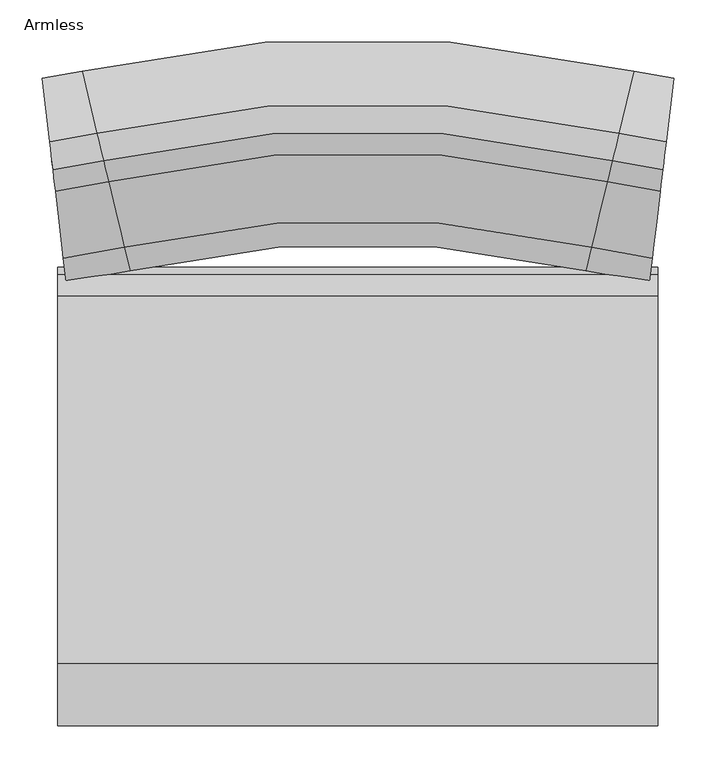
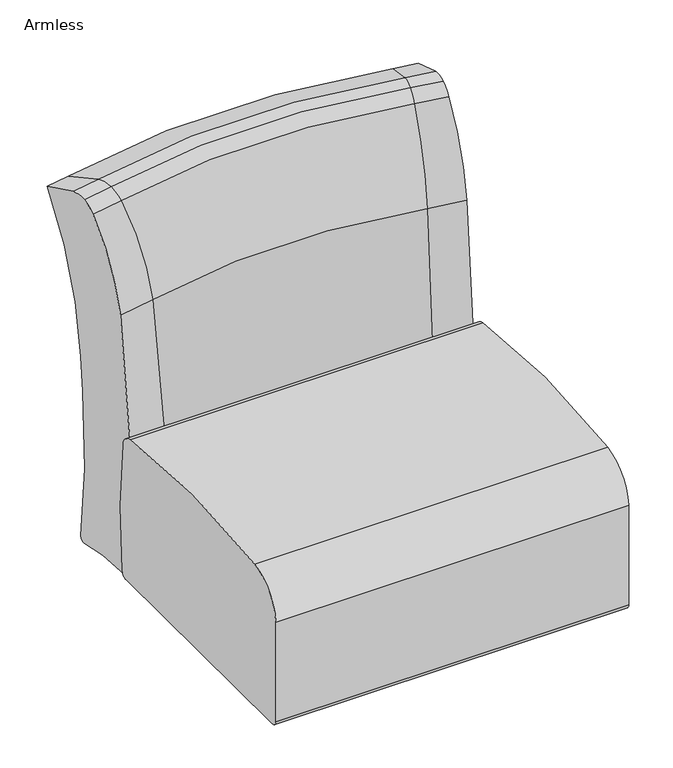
"""IFC4 building model written with IfcOpenShell, lengths in millimetres: furniture geometry, Steelcase Turnstone - Jenny - Seating - Lounge Chair : Armless."""

from ifc_helpers import new_model, si_unit, point, frame, frame_2d, origin, place, context, project, spatial, circle_curve, ellipse_curve, trimmed, segment, composite_curve, outline, extrude, source, transform, mapped, element, save
from ifc_brep_helpers import plane_surface, revolved_surface, advanced_brep


def armless_185a511e(model_context):
    return source(origin(), model_context, "Body", "SolidModel", [
        extrude(outline(composite_curve([segment(trimmed(circle_curve(frame_2d((295.9448235, -1001.9734672)), 1409.8455938), [point((73.6948235, 390.2440215))], [point((509.3958902, 391.6201753))], False, "CARTESIAN"), True, "CONTINUOUS"), segment(trimmed(circle_curve(frame_2d((504.9855283, 362.825509)), 29.1304669), [point((509.3958902, 391.6201753))], [point((533.8942756, 366.4127691))], False, "CARTESIAN"), True, "CONTINUOUS"), segment(trimmed(circle_curve(frame_2d((-629.8512072, 222.0046519)), 1172.6709909), [point((533.8942756, 366.4127691))], [point((536.0042378, 95.7575362))], False, "CARTESIAN"), True, "CONTINUOUS"), segment(trimmed(circle_curve(frame_2d((523.173628, 97.1469259)), 12.9056171), [point((536.0042378, 95.7575362))], [point((523.4804674, 84.244957))], False, "CARTESIAN"), True, "CONTINUOUS"), segment(trimmed(circle_curve(frame_2d((320.8347088, 8605.0850806)), 8523.249481), [point((523.4804674, 84.244957))], [point((12.6556229, 87.4089088))], False, "CARTESIAN"), True, "CONTINUOUS"), segment(trimmed(circle_curve(frame_2d((13.132469, 100.5883266)), 13.1880413), [point((12.6556229, 87.4089088))], [point((0.0, 99.3789084))], False, "CARTESIAN"), True, "CONTINUOUS"), segment(trimmed(circle_curve(frame_2d((1151.5533041, 205.4297595)), 1156.4263034), [point((0.0, 99.3789084))], [point((0.0, 311.4806107))], False, "CARTESIAN"), True, "CONTINUOUS"), segment(trimmed(circle_curve(frame_2d((87.555619, 303.4172862)), 87.9261259), [point((0.0, 311.4806107))], [point((73.6948235, 390.2440215))], False, "CARTESIAN"), True, "CONTINUOUS")], self_intersect=False)), frame((-355.6, 0.0, 0.0), z_axis=(1.0, 0.0, 0.0), x_axis=(0.0, 1.0, 0.0)), (0.0, 0.0, 1.0), 711.2),
        advanced_brep(
        [(-365.286616, 691.4565759, 813.9027777), (-374.1581434, 766.5452606, 782.2939395), (-362.648411, 669.1267858, 474.5451921), (-361.9534589, 663.244705, 404.1661408), (-361.3770167, 658.3656933, 241.4197302), (-362.6146384, 668.8409343, 92.210125), (-361.3954165, 658.5214293, 82.3084573), (-349.0009614, 553.6146536, 81.9987921), (-346.7002803, 534.1416683, 97.0710008), (-349.0142051, 553.7267481, 627.8736036), (-358.4008193, 633.1751322, 797.7221008), (-361.3730638, 658.3322355, 814.4538477), (-326.9667617, 774.979302, 782.2939395), (-309.2801577, 701.4660474, 813.9027777), (-304.020535, 679.604757, 474.5451921), (-302.6350528, 673.8460877, 404.1661408), (-301.4858364, 669.0694421, 241.4197302), (-303.9532047, 679.3249029, 92.210125), (-301.5225189, 669.2219106, 82.3084573), (-276.8124763, 566.5161761, 81.9987921), (-272.2257535, 547.451752, 97.0710008), (-276.8388793, 566.6259188, 627.8736036), (-295.5523794, 644.4074023, 797.7221008), (-301.4779556, 669.0366863, 814.4538477), (326.9667617, 774.979302, 782.2939395), (309.2801577, 701.4660474, 813.9027777), (304.020535, 679.604757, 474.5451921), (302.6350528, 673.8460877, 404.1661408), (301.4858364, 669.0694421, 241.4197302), (303.9532047, 679.3249029, 92.210125), (301.5225189, 669.2219106, 82.3084573), (276.8124763, 566.5161761, 81.9987921), (272.2257535, 547.451752, 97.0710008), (276.8388793, 566.6259188, 627.8736036), (295.5523794, 644.4074023, 797.7221008), (301.4779556, 669.0366863, 814.4538477), (365.286616, 691.4565759, 813.9027777), (361.3730638, 658.3322355, 814.4538477), (358.4008193, 633.1751322, 797.7221008), (349.0142051, 553.7267481, 627.8736036), (346.7002803, 534.1416683, 97.0710008), (349.0009614, 553.6146536, 81.9987921), (361.3954165, 658.5214293, 82.3084573), (362.6146384, 668.8409343, 92.210125), (361.3770167, 658.3656933, 241.4197302), (361.9534589, 663.244705, 404.1661408), (362.648411, 669.1267858, 474.5451921), (374.1581434, 766.5452606, 782.2939395)],
        [
            (0, 1, circle_curve(frame((-341.1261096, 486.9618391, 215.0940543), z_axis=(-0.9930928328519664, -0.11733126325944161, 0.0), x_axis=(-0.11733126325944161, 0.9930928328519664, 0.0)), 633.2248531)),
            (1, 2, circle_curve(frame((-441.9489126, 1340.3269208, 428.618251), z_axis=(0.9930928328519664, 0.11733126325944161, 0.0), x_axis=(-0.11733126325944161, 0.9930928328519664, 0.0)), 677.4270991)),
            (2, 3, circle_curve(frame((-106.0716484, -1502.5411649, 623.1418041), z_axis=(-0.9930928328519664, -0.11733126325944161, 0.0), x_axis=(-0.11733126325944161, 0.9930928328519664, 0.0)), 2191.8152925)),
            (3, 4, circle_curve(frame((-498.0432857, 1815.1101831, 287.7047166), z_axis=(0.9930928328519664, 0.11733126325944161, 0.0), x_axis=(-0.11733126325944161, 0.9930928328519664, 0.0)), 1165.7091335)),
            (4, 5, circle_curve(frame((-645.5581159, 3063.6769889, 337.6638027), z_axis=(0.9930928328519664, 0.11733126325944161, 0.0), x_axis=(-0.11733126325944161, 0.9930928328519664, 0.0)), 2423.9521958)),
            (5, 6, circle_curve(frame((-361.5543466, 659.8666153, 91.290321), z_axis=(-0.9930928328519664, -0.11733126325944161, 0.0), x_axis=(-0.11733126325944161, 0.9930928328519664, 0.0)), 9.0834278)),
            (6, 7, circle_curve(frame((-355.3163018, 607.0677497, -261.2499371), z_axis=(0.9930928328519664, 0.11733126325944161, 0.0), x_axis=(-0.11733126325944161, 0.9930928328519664, 0.0)), 347.443243)),
            (7, 8, circle_curve(frame((-348.6908883, 550.9901919, 98.8517567), z_axis=(-0.9930928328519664, -0.11733126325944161, 0.0), x_axis=(-0.11733126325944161, 0.9930928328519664, 0.0)), 17.0589085)),
            (8, 9, circle_curve(frame((-566.1189152, 2391.3029031, 293.3582769), z_axis=(-0.9930928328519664, -0.11733126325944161, 0.0), x_axis=(-0.11733126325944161, 0.9930928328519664, 0.0)), 1880.3513194)),
            (9, 10, circle_curve(frame((-390.9633635, 908.7847898, 563.2382651), z_axis=(-0.9930928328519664, -0.11733126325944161, 0.0), x_axis=(-0.11733126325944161, 0.9930928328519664, 0.0)), 363.3230957)),
            (10, 11, circle_curve(frame((-363.2305214, 674.0537729, 762.9432742), z_axis=(-0.9930928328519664, -0.11733126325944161, 0.0), x_axis=(-0.11733126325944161, 0.9930928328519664, 0.0)), 53.8883667)),
            (11, 0, circle_curve(frame((-363.2305214, 674.0537729, 762.9432742), z_axis=(-0.9930928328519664, -0.11733126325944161, 0.0), x_axis=(-0.11733126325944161, 0.9930928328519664, 0.0)), 53.8883667)),
            (12, 1, circle_curve(frame((-421.6517332, 1168.5314176, 782.2939395), z_axis=(0.0, 0.0, -1.0), x_axis=(0.1173312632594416, -0.9930928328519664, 0.0)), 404.7820543)),
            (0, 13, circle_curve(frame((-421.6517332, 1168.5314176, 813.9027777), z_axis=(0.0, 0.0, 1.0), x_axis=(0.1173312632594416, -0.9930928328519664, 0.0)), 480.3929964)),
            (13, 12, circle_curve(frame((-261.1128813, 501.2617994, 215.0940543), z_axis=(-0.9722568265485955, -0.23391593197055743, 0.0), x_axis=(-0.23391593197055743, 0.9722568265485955, 0.0)), 633.2248531)),
            (14, 2, circle_curve(frame((-421.6517332, 1168.5314176, 474.5451921), z_axis=(0.0, 0.0, -1.0), x_axis=(0.1173312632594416, -0.9930928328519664, 0.0)), 502.8780948)),
            (12, 14, circle_curve(frame((-462.1169383, 1336.7224922, 428.618251), z_axis=(0.9722568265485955, 0.23391593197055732, 0.0), x_axis=(-0.23391593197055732, 0.9722568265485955, 0.0)), 677.4270991)),
            (15, 3, circle_curve(frame((-421.6517332, 1168.5314176, 404.1661408), z_axis=(0.0, 0.0, -1.0), x_axis=(0.1173312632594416, -0.9930928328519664, 0.0)), 508.8010867)),
            (14, 15, circle_curve(frame((207.500358, -1446.4995912, 623.1418041), z_axis=(-0.9722568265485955, -0.2339159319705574, 0.0), x_axis=(-0.2339159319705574, 0.9722568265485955, 0.0)), 2191.8152925)),
            (16, 4, circle_curve(frame((-421.6517332, 1168.5314176, 241.4197302), z_axis=(0.0, 0.0, -1.0), x_axis=(0.1173312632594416, -0.9930928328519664, 0.0)), 513.714033)),
            (15, 16, circle_curve(frame((-573.9487486, 1801.5443625, 287.7047166), z_axis=(0.9722568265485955, 0.23391593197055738, 0.0), x_axis=(-0.23391593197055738, 0.9722568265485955, 0.0)), 1165.7091335)),
            (17, 5, circle_curve(frame((-421.6517332, 1168.5314176, 92.210125), z_axis=(0.0, 0.0, -1.0), x_axis=(0.1173312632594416, -0.9930928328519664, 0.0)), 503.1659344)),
            (16, 17, circle_curve(frame((-868.0397524, 3023.9150817, 337.6638027), z_axis=(0.9722568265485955, 0.2339159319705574, 0.0), x_axis=(-0.2339159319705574, 0.9722568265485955, 0.0)), 2423.9521958)),
            (18, 6, circle_curve(frame((-421.6517332, 1168.5314176, 82.3084573), z_axis=(0.0, 0.0, -1.0), x_axis=(0.1173312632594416, -0.9930928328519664, 0.0)), 513.5572138)),
            (17, 18, circle_curve(frame((-301.8393678, 670.5388734, 91.290321), z_axis=(-0.9722568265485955, -0.23391593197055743, 0.0), x_axis=(-0.23391593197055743, 0.9722568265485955, 0.0)), 9.0834278)),
            (19, 7, circle_curve(frame((-421.6517332, 1168.5314176, 81.9987921), z_axis=(0.0, 0.0, -1.0), x_axis=(0.1173312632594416, -0.9930928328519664, 0.0)), 619.193638)),
            (18, 19, circle_curve(frame((-289.4029717, 618.8477768, -261.2499371), z_axis=(0.9722568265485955, 0.2339159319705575, 0.0), x_axis=(-0.2339159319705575, 0.9722568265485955, 0.0)), 347.443243)),
            (20, 8, circle_curve(frame((-421.6517332, 1168.5314176, 97.0710008), z_axis=(0.0, 0.0, -1.0), x_axis=(0.1173312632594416, -0.9930928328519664, 0.0)), 638.8020619)),
            (19, 20, circle_curve(frame((-276.194303, 563.9467781, 98.8517567), z_axis=(-0.9722568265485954, -0.23391593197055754, 0.0), x_axis=(-0.23391593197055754, 0.9722568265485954, 0.0)), 17.0589085)),
            (21, 9, circle_curve(frame((-421.6517332, 1168.5314176, 627.8736036), z_axis=(0.0, 0.0, -1.0), x_axis=(0.1173312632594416, -0.9930928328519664, 0.0)), 619.0807637)),
            (20, 21, circle_curve(frame((-709.6668332, 2365.6480262, 293.3582769), z_axis=(-0.9722568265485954, -0.23391593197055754, 0.0), x_axis=(-0.23391593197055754, 0.9722568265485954, 0.0)), 1880.3513194)),
            (22, 10, circle_curve(frame((-421.6517332, 1168.5314176, 797.7221008), z_axis=(0.0, 0.0, -1.0), x_axis=(0.1173312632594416, -0.9930928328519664, 0.0)), 539.0797997)),
            (21, 22, circle_curve(frame((-360.4702681, 914.2345144, 563.2382651), z_axis=(-0.9722568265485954, -0.23391593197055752, 0.0), x_axis=(-0.23391593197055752, 0.9722568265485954, 0.0)), 363.3230957)),
            (23, 11, circle_curve(frame((-421.6517332, 1168.5314176, 814.4538477), z_axis=(0.0, 0.0, -1.0), x_axis=(0.1173312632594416, -0.9930928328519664, 0.0)), 513.7477235)),
            (22, 23, circle_curve(frame((-305.1810516, 684.4283713, 762.9432742), z_axis=(-0.9722568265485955, -0.2339159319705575, 0.0), x_axis=(-0.2339159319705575, 0.9722568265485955, 0.0)), 53.8883667)),
            (23, 13, circle_curve(frame((-305.1810516, 684.4283713, 762.9432742), z_axis=(-0.9722568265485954, -0.23391593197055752, 0.0), x_axis=(-0.23391593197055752, 0.9722568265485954, 0.0)), 53.8883667)),
            (24, 12, circle_curve(frame((0.0, -584.0374329, 782.2939395), z_axis=(0.0, 0.0, 1.0), x_axis=(-0.23391593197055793, 0.9722568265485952, 0.0)), 1397.7960327)),
            (13, 25, circle_curve(frame((0.0, -584.0374329, 813.9027777), z_axis=(0.0, 0.0, -1.0), x_axis=(-0.23391593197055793, 0.9722568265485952, 0.0)), 1322.1850906)),
            (25, 24, circle_curve(frame((261.1128813, 501.2617994, 215.0940543), z_axis=(-0.9722568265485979, 0.23391593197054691, 0.0), x_axis=(0.23391593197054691, 0.9722568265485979, 0.0)), 633.2248531)),
            (26, 14, circle_curve(frame((0.0, -584.0374329, 474.5451921), z_axis=(0.0, 0.0, 1.0), x_axis=(-0.23391593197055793, 0.9722568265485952, 0.0)), 1299.6999922)),
            (24, 26, circle_curve(frame((462.1169383, 1336.7224922, 428.618251), z_axis=(0.9722568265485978, -0.23391593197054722, 0.0), x_axis=(0.23391593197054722, 0.9722568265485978, 0.0)), 677.4270991)),
            (27, 15, circle_curve(frame((0.0, -584.0374329, 404.1661408), z_axis=(0.0, 0.0, 1.0), x_axis=(-0.23391593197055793, 0.9722568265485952, 0.0)), 1293.7770003)),
            (26, 27, circle_curve(frame((-207.500358, -1446.4995912, 623.1418041), z_axis=(-0.9722568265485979, 0.23391593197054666, 0.0), x_axis=(0.23391593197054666, 0.9722568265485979, 0.0)), 2191.8152925)),
            (28, 16, circle_curve(frame((0.0, -584.0374329, 241.4197302), z_axis=(0.0, 0.0, 1.0), x_axis=(-0.23391593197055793, 0.9722568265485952, 0.0)), 1288.864054)),
            (27, 28, circle_curve(frame((573.9487486, 1801.5443625, 287.7047166), z_axis=(0.9722568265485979, -0.23391593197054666, 0.0), x_axis=(0.23391593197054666, 0.9722568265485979, 0.0)), 1165.7091335)),
            (29, 17, circle_curve(frame((0.0, -584.0374329, 92.210125), z_axis=(0.0, 0.0, 1.0), x_axis=(-0.23391593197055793, 0.9722568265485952, 0.0)), 1299.4121525)),
            (28, 29, circle_curve(frame((868.0397524, 3023.9150817, 337.6638027), z_axis=(0.9722568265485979, -0.23391593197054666, 0.0), x_axis=(0.23391593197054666, 0.9722568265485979, 0.0)), 2423.9521958)),
            (30, 18, circle_curve(frame((0.0, -584.0374329, 82.3084573), z_axis=(0.0, 0.0, 1.0), x_axis=(-0.23391593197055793, 0.9722568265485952, 0.0)), 1289.0208732)),
            (29, 30, circle_curve(frame((301.8393678, 670.5388734, 91.290321), z_axis=(-0.9722568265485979, 0.23391593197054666, 0.0), x_axis=(0.23391593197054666, 0.9722568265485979, 0.0)), 9.0834278)),
            (31, 19, circle_curve(frame((0.0, -584.0374329, 81.9987921), z_axis=(0.0, 0.0, 1.0), x_axis=(-0.23391593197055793, 0.9722568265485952, 0.0)), 1183.384449)),
            (30, 31, circle_curve(frame((289.4029717, 618.8477768, -261.2499371), z_axis=(0.9722568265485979, -0.23391593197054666, 0.0), x_axis=(0.23391593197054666, 0.9722568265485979, 0.0)), 347.443243)),
            (32, 20, circle_curve(frame((0.0, -584.0374329, 97.0710008), z_axis=(0.0, 0.0, 1.0), x_axis=(-0.23391593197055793, 0.9722568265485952, 0.0)), 1163.776025)),
            (31, 32, circle_curve(frame((276.194303, 563.9467781, 98.8517567), z_axis=(-0.9722568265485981, 0.23391593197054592, 0.0), x_axis=(0.23391593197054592, 0.9722568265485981, 0.0)), 17.0589085)),
            (33, 21, circle_curve(frame((0.0, -584.0374329, 627.8736036), z_axis=(0.0, 0.0, 1.0), x_axis=(-0.23391593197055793, 0.9722568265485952, 0.0)), 1183.4973232)),
            (32, 33, circle_curve(frame((709.6668332, 2365.6480262, 293.3582769), z_axis=(-0.9722568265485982, 0.23391593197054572, 0.0), x_axis=(0.23391593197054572, 0.9722568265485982, 0.0)), 1880.3513194)),
            (34, 22, circle_curve(frame((0.0, -584.0374329, 797.7221008), z_axis=(0.0, 0.0, 1.0), x_axis=(-0.23391593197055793, 0.9722568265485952, 0.0)), 1263.4982873)),
            (33, 34, circle_curve(frame((360.4702681, 914.2345144, 563.2382651), z_axis=(-0.9722568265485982, 0.2339159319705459, 0.0), x_axis=(0.2339159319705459, 0.9722568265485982, 0.0)), 363.3230957)),
            (35, 23, circle_curve(frame((0.0, -584.0374329, 814.4538477), z_axis=(0.0, 0.0, 1.0), x_axis=(-0.23391593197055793, 0.9722568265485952, 0.0)), 1288.8303635)),
            (34, 35, circle_curve(frame((305.1810516, 684.4283713, 762.9432742), z_axis=(-0.972256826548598, 0.23391593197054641, 0.0), x_axis=(0.23391593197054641, 0.972256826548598, 0.0)), 53.8883667)),
            (35, 25, circle_curve(frame((305.1810516, 684.4283713, 762.9432742), z_axis=(-0.972256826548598, 0.23391593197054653, 0.0), x_axis=(0.23391593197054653, 0.972256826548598, 0.0)), 53.8883667)),
            (36, 37, circle_curve(frame((363.2305214, 674.0537729, 762.9432742), z_axis=(0.9930928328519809, -0.11733126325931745, 0.0), x_axis=(0.11733126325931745, 0.9930928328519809, 0.0)), 53.8883667)),
            (37, 38, circle_curve(frame((363.2305214, 674.0537729, 762.9432742), z_axis=(0.9930928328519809, -0.11733126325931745, 0.0), x_axis=(0.11733126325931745, 0.9930928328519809, 0.0)), 53.8883667)),
            (38, 39, circle_curve(frame((390.9633635, 908.7847898, 563.2382651), z_axis=(0.9930928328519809, -0.11733126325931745, 0.0), x_axis=(0.11733126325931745, 0.9930928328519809, 0.0)), 363.3230957)),
            (39, 40, circle_curve(frame((566.1189152, 2391.3029031, 293.3582769), z_axis=(0.9930928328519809, -0.11733126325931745, 0.0), x_axis=(0.11733126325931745, 0.9930928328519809, 0.0)), 1880.3513194)),
            (40, 41, circle_curve(frame((348.6908883, 550.9901919, 98.8517567), z_axis=(0.9930928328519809, -0.11733126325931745, 0.0), x_axis=(0.11733126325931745, 0.9930928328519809, 0.0)), 17.0589085)),
            (41, 42, circle_curve(frame((355.3163018, 607.0677497, -261.2499371), z_axis=(-0.9930928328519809, 0.11733126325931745, 0.0), x_axis=(0.11733126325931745, 0.9930928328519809, 0.0)), 347.443243)),
            (42, 43, circle_curve(frame((361.5543466, 659.8666153, 91.290321), z_axis=(0.9930928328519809, -0.11733126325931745, 0.0), x_axis=(0.11733126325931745, 0.9930928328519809, 0.0)), 9.0834278)),
            (43, 44, circle_curve(frame((645.5581159, 3063.6769889, 337.6638027), z_axis=(-0.9930928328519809, 0.11733126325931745, 0.0), x_axis=(0.11733126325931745, 0.9930928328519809, 0.0)), 2423.9521958)),
            (44, 45, circle_curve(frame((498.0432857, 1815.1101831, 287.7047166), z_axis=(-0.9930928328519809, 0.11733126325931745, 0.0), x_axis=(0.11733126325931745, 0.9930928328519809, 0.0)), 1165.7091335)),
            (45, 46, circle_curve(frame((106.0716484, -1502.5411649, 623.1418041), z_axis=(0.9930928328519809, -0.11733126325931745, 0.0), x_axis=(0.11733126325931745, 0.9930928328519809, 0.0)), 2191.8152925)),
            (46, 47, circle_curve(frame((441.9489126, 1340.3269208, 428.618251), z_axis=(-0.9930928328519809, 0.11733126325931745, 0.0), x_axis=(0.11733126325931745, 0.9930928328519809, 0.0)), 677.4270991)),
            (47, 36, circle_curve(frame((341.1261096, 486.9618391, 215.0940543), z_axis=(0.9930928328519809, -0.11733126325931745, 0.0), x_axis=(0.11733126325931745, 0.9930928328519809, 0.0)), 633.2248531)),
            (47, 24, circle_curve(frame((421.6517332, 1168.5314176, 782.2939395), z_axis=(0.0, 0.0, -1.0), x_axis=(-0.2339159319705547, -0.972256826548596, 0.0)), 404.7820543)),
            (25, 36, circle_curve(frame((421.6517332, 1168.5314176, 813.9027777), z_axis=(0.0, 0.0, 1.0), x_axis=(-0.2339159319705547, -0.972256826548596, 0.0)), 480.3929964)),
            (46, 26, circle_curve(frame((421.6517332, 1168.5314176, 474.5451921), z_axis=(0.0, 0.0, -1.0), x_axis=(-0.2339159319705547, -0.972256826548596, 0.0)), 502.8780948)),
            (45, 27, circle_curve(frame((421.6517332, 1168.5314176, 404.1661408), z_axis=(0.0, 0.0, -1.0), x_axis=(-0.2339159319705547, -0.972256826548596, 0.0)), 508.8010867)),
            (44, 28, circle_curve(frame((421.6517332, 1168.5314176, 241.4197302), z_axis=(0.0, 0.0, -1.0), x_axis=(-0.2339159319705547, -0.972256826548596, 0.0)), 513.714033)),
            (43, 29, circle_curve(frame((421.6517332, 1168.5314176, 92.210125), z_axis=(0.0, 0.0, -1.0), x_axis=(-0.2339159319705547, -0.972256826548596, 0.0)), 503.1659344)),
            (42, 30, circle_curve(frame((421.6517332, 1168.5314176, 82.3084573), z_axis=(0.0, 0.0, -1.0), x_axis=(-0.2339159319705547, -0.972256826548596, 0.0)), 513.5572138)),
            (41, 31, circle_curve(frame((421.6517332, 1168.5314176, 81.9987921), z_axis=(0.0, 0.0, -1.0), x_axis=(-0.2339159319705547, -0.972256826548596, 0.0)), 619.193638)),
            (40, 32, circle_curve(frame((421.6517332, 1168.5314176, 97.0710008), z_axis=(0.0, 0.0, -1.0), x_axis=(-0.2339159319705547, -0.972256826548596, 0.0)), 638.8020619)),
            (39, 33, circle_curve(frame((421.6517332, 1168.5314176, 627.8736036), z_axis=(0.0, 0.0, -1.0), x_axis=(-0.2339159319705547, -0.972256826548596, 0.0)), 619.0807637)),
            (38, 34, circle_curve(frame((421.6517332, 1168.5314176, 797.7221008), z_axis=(0.0, 0.0, -1.0), x_axis=(-0.2339159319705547, -0.972256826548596, 0.0)), 539.0797997)),
            (37, 35, circle_curve(frame((421.6517332, 1168.5314176, 814.4538477), z_axis=(0.0, 0.0, -1.0), x_axis=(-0.2339159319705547, -0.972256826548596, 0.0)), 513.7477235)),
        ],
        [
            plane_surface(frame((-355.6, 609.4689735, 0.0), z_axis=(-0.9930928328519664, -0.11733126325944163, 0.0), x_axis=(0.0, 0.0, 1.0))),
            revolved_surface(trimmed(ellipse_curve(frame((-341.1261096, 486.9618391, 215.0940543), z_axis=(-0.9930928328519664, -0.11733126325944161, 0.0), x_axis=(-0.11733126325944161, 0.9930928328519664, 0.0)), 633.2248531, 633.2248531), [point((-365.286616, 691.4565759, 813.9027777))], [point((-374.1581434, 766.5452606, 782.2939395))], True, "CARTESIAN"), (-421.6517332, 1168.5314176, 0.0), (0.0, 0.0, 1.0)),
            revolved_surface(trimmed(ellipse_curve(frame((-441.9489126, 1340.3269208, 428.618251), z_axis=(0.9930928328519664, 0.11733126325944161, 0.0), x_axis=(-0.11733126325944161, 0.9930928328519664, 0.0)), 677.4270991, 677.4270991), [point((-374.1581434, 766.5452606, 782.2939395))], [point((-362.648411, 669.1267858, 474.5451921))], True, "CARTESIAN"), (-421.6517332, 1168.5314176, 0.0), (0.0, 0.0, 1.0)),
            revolved_surface(trimmed(ellipse_curve(frame((-106.0716484, -1502.5411649, 623.1418041), z_axis=(-0.9930928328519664, -0.11733126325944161, 0.0), x_axis=(-0.11733126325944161, 0.9930928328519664, 0.0)), 2191.8152925, 2191.8152925), [point((-362.648411, 669.1267858, 474.5451921))], [point((-361.9534589, 663.244705, 404.1661408))], True, "CARTESIAN"), (-421.6517332, 1168.5314176, 0.0), (0.0, 0.0, 1.0)),
            revolved_surface(trimmed(ellipse_curve(frame((-498.0432857, 1815.1101831, 287.7047166), z_axis=(0.9930928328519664, 0.11733126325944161, 0.0), x_axis=(-0.11733126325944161, 0.9930928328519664, 0.0)), 1165.7091335, 1165.7091335), [point((-361.9534589, 663.244705, 404.1661408))], [point((-361.3770167, 658.3656933, 241.4197302))], True, "CARTESIAN"), (-421.6517332, 1168.5314176, 0.0), (0.0, 0.0, 1.0)),
            revolved_surface(trimmed(ellipse_curve(frame((-645.5581159, 3063.6769889, 337.6638027), z_axis=(0.9930928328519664, 0.11733126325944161, 0.0), x_axis=(-0.11733126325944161, 0.9930928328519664, 0.0)), 2423.9521958, 2423.9521958), [point((-361.3770167, 658.3656933, 241.4197302))], [point((-362.6146384, 668.8409343, 92.210125))], True, "CARTESIAN"), (-421.6517332, 1168.5314176, 0.0), (0.0, 0.0, 1.0)),
            revolved_surface(trimmed(ellipse_curve(frame((-361.5543466, 659.8666153, 91.290321), z_axis=(-0.9930928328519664, -0.11733126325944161, 0.0), x_axis=(-0.11733126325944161, 0.9930928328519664, 0.0)), 9.0834278, 9.0834278), [point((-362.6146384, 668.8409343, 92.210125))], [point((-361.3954165, 658.5214293, 82.3084573))], True, "CARTESIAN"), (-421.6517332, 1168.5314176, 0.0), (0.0, 0.0, 1.0)),
            revolved_surface(trimmed(ellipse_curve(frame((-355.3163018, 607.0677497, -261.2499371), z_axis=(0.9930928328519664, 0.11733126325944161, 0.0), x_axis=(-0.11733126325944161, 0.9930928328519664, 0.0)), 347.443243, 347.443243), [point((-361.3954165, 658.5214293, 82.3084573))], [point((-349.0009614, 553.6146536, 81.9987921))], True, "CARTESIAN"), (-421.6517332, 1168.5314176, 0.0), (0.0, 0.0, 1.0)),
            revolved_surface(trimmed(ellipse_curve(frame((-348.6908883, 550.9901919, 98.8517567), z_axis=(-0.9930928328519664, -0.11733126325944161, 0.0), x_axis=(-0.11733126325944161, 0.9930928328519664, 0.0)), 17.0589085, 17.0589085), [point((-349.0009614, 553.6146536, 81.9987921))], [point((-346.7002803, 534.1416683, 97.0710008))], True, "CARTESIAN"), (-421.6517332, 1168.5314176, 0.0), (0.0, 0.0, 1.0)),
            revolved_surface(trimmed(ellipse_curve(frame((-566.1189152, 2391.3029031, 293.3582769), z_axis=(-0.9930928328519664, -0.11733126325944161, 0.0), x_axis=(-0.11733126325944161, 0.9930928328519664, 0.0)), 1880.3513194, 1880.3513194), [point((-346.7002803, 534.1416683, 97.0710008))], [point((-349.0142051, 553.7267481, 627.8736036))], True, "CARTESIAN"), (-421.6517332, 1168.5314176, 0.0), (0.0, 0.0, 1.0)),
            revolved_surface(trimmed(ellipse_curve(frame((-390.9633635, 908.7847898, 563.2382651), z_axis=(-0.9930928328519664, -0.11733126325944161, 0.0), x_axis=(-0.11733126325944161, 0.9930928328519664, 0.0)), 363.3230957, 363.3230957), [point((-349.0142051, 553.7267481, 627.8736036))], [point((-358.4008193, 633.1751322, 797.7221008))], True, "CARTESIAN"), (-421.6517332, 1168.5314176, 0.0), (0.0, 0.0, 1.0)),
            revolved_surface(trimmed(ellipse_curve(frame((-363.2305214, 674.0537729, 762.9432742), z_axis=(-0.9930928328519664, -0.11733126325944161, 0.0), x_axis=(-0.11733126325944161, 0.9930928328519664, 0.0)), 53.8883667, 53.8883667), [point((-358.4008193, 633.1751322, 797.7221008))], [point((-361.3730638, 658.3322355, 814.4538477))], True, "CARTESIAN"), (-421.6517332, 1168.5314176, 0.0), (0.0, 0.0, 1.0)),
            revolved_surface(trimmed(ellipse_curve(frame((-363.2305214, 674.0537729, 762.9432742), z_axis=(-0.9930928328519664, -0.11733126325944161, 0.0), x_axis=(-0.11733126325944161, 0.9930928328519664, 0.0)), 53.8883667, 53.8883667), [point((-361.3730638, 658.3322355, 814.4538477))], [point((-365.286616, 691.4565759, 813.9027777))], True, "CARTESIAN"), (-421.6517332, 1168.5314176, 0.0), (0.0, 0.0, 1.0)),
            revolved_surface(trimmed(ellipse_curve(frame((-261.1128813, 501.2617994, 215.0940543), z_axis=(-0.9722568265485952, -0.23391593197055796, 0.0), x_axis=(-0.23391593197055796, 0.9722568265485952, 0.0)), 633.2248531, 633.2248531), [point((-309.2801577, 701.4660474, 813.9027777))], [point((-326.9667617, 774.979302, 782.2939395))], True, "CARTESIAN"), (0.0, -584.0374329, 0.0), (0.0, 0.0, -1.0)),
            revolved_surface(trimmed(ellipse_curve(frame((-462.1169383, 1336.7224922, 428.618251), z_axis=(0.9722568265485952, 0.23391593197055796, 0.0), x_axis=(-0.23391593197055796, 0.9722568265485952, 0.0)), 677.4270991, 677.4270991), [point((-326.9667617, 774.979302, 782.2939395))], [point((-304.020535, 679.604757, 474.5451921))], True, "CARTESIAN"), (0.0, -584.0374329, 0.0), (0.0, 0.0, -1.0)),
            revolved_surface(trimmed(ellipse_curve(frame((207.500358, -1446.4995912, 623.1418041), z_axis=(-0.9722568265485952, -0.23391593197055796, 0.0), x_axis=(-0.23391593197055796, 0.9722568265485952, 0.0)), 2191.8152925, 2191.8152925), [point((-304.020535, 679.604757, 474.5451921))], [point((-302.6350528, 673.8460877, 404.1661408))], True, "CARTESIAN"), (0.0, -584.0374329, 0.0), (0.0, 0.0, -1.0)),
            revolved_surface(trimmed(ellipse_curve(frame((-573.9487486, 1801.5443625, 287.7047166), z_axis=(0.9722568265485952, 0.23391593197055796, 0.0), x_axis=(-0.23391593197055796, 0.9722568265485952, 0.0)), 1165.7091335, 1165.7091335), [point((-302.6350528, 673.8460877, 404.1661408))], [point((-301.4858364, 669.0694421, 241.4197302))], True, "CARTESIAN"), (0.0, -584.0374329, 0.0), (0.0, 0.0, -1.0)),
            revolved_surface(trimmed(ellipse_curve(frame((-868.0397524, 3023.9150817, 337.6638027), z_axis=(0.9722568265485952, 0.23391593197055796, 0.0), x_axis=(-0.23391593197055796, 0.9722568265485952, 0.0)), 2423.9521958, 2423.9521958), [point((-301.4858364, 669.0694421, 241.4197302))], [point((-303.9532047, 679.3249029, 92.210125))], True, "CARTESIAN"), (0.0, -584.0374329, 0.0), (0.0, 0.0, -1.0)),
            revolved_surface(trimmed(ellipse_curve(frame((-301.8393678, 670.5388734, 91.290321), z_axis=(-0.9722568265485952, -0.23391593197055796, 0.0), x_axis=(-0.23391593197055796, 0.9722568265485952, 0.0)), 9.0834278, 9.0834278), [point((-303.9532047, 679.3249029, 92.210125))], [point((-301.5225189, 669.2219106, 82.3084573))], True, "CARTESIAN"), (0.0, -584.0374329, 0.0), (0.0, 0.0, -1.0)),
            revolved_surface(trimmed(ellipse_curve(frame((-289.4029717, 618.8477768, -261.2499371), z_axis=(0.9722568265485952, 0.23391593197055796, 0.0), x_axis=(-0.23391593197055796, 0.9722568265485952, 0.0)), 347.443243, 347.443243), [point((-301.5225189, 669.2219106, 82.3084573))], [point((-276.8124763, 566.5161761, 81.9987921))], True, "CARTESIAN"), (0.0, -584.0374329, 0.0), (0.0, 0.0, -1.0)),
            revolved_surface(trimmed(ellipse_curve(frame((-276.194303, 563.9467781, 98.8517567), z_axis=(-0.9722568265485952, -0.23391593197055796, 0.0), x_axis=(-0.23391593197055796, 0.9722568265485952, 0.0)), 17.0589085, 17.0589085), [point((-276.8124763, 566.5161761, 81.9987921))], [point((-272.2257535, 547.451752, 97.0710008))], True, "CARTESIAN"), (0.0, -584.0374329, 0.0), (0.0, 0.0, -1.0)),
            revolved_surface(trimmed(ellipse_curve(frame((-709.6668332, 2365.6480262, 293.3582769), z_axis=(-0.9722568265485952, -0.23391593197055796, 0.0), x_axis=(-0.23391593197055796, 0.9722568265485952, 0.0)), 1880.3513194, 1880.3513194), [point((-272.2257535, 547.451752, 97.0710008))], [point((-276.8388793, 566.6259188, 627.8736036))], True, "CARTESIAN"), (0.0, -584.0374329, 0.0), (0.0, 0.0, -1.0)),
            revolved_surface(trimmed(ellipse_curve(frame((-360.4702681, 914.2345144, 563.2382651), z_axis=(-0.9722568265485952, -0.23391593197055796, 0.0), x_axis=(-0.23391593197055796, 0.9722568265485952, 0.0)), 363.3230957, 363.3230957), [point((-276.8388793, 566.6259188, 627.8736036))], [point((-295.5523794, 644.4074023, 797.7221008))], True, "CARTESIAN"), (0.0, -584.0374329, 0.0), (0.0, 0.0, -1.0)),
            revolved_surface(trimmed(ellipse_curve(frame((-305.1810516, 684.4283713, 762.9432742), z_axis=(-0.9722568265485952, -0.23391593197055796, 0.0), x_axis=(-0.23391593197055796, 0.9722568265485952, 0.0)), 53.8883667, 53.8883667), [point((-295.5523794, 644.4074023, 797.7221008))], [point((-301.4779556, 669.0366863, 814.4538477))], True, "CARTESIAN"), (0.0, -584.0374329, 0.0), (0.0, 0.0, -1.0)),
            revolved_surface(trimmed(ellipse_curve(frame((-305.1810516, 684.4283713, 762.9432742), z_axis=(-0.9722568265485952, -0.23391593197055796, 0.0), x_axis=(-0.23391593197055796, 0.9722568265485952, 0.0)), 53.8883667, 53.8883667), [point((-301.4779556, 669.0366863, 814.4538477))], [point((-309.2801577, 701.4660474, 813.9027777))], True, "CARTESIAN"), (0.0, -584.0374329, 0.0), (0.0, 0.0, -1.0)),
            plane_surface(frame((355.6, 609.4689735, 0.0), z_axis=(0.993092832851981, -0.11733126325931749, 0.0), x_axis=(0.0, 0.0, 1.0))),
            revolved_surface(trimmed(ellipse_curve(frame((261.1128813, 501.2617994, 215.0940543), z_axis=(-0.972256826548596, 0.23391593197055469, 0.0), x_axis=(0.23391593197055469, 0.972256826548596, 0.0)), 633.2248531, 633.2248531), [point((309.2801577, 701.4660474, 813.9027777))], [point((326.9667617, 774.979302, 782.2939395))], True, "CARTESIAN"), (421.6517332, 1168.5314176, 0.0), (0.0, 0.0, 1.0)),
            revolved_surface(trimmed(ellipse_curve(frame((462.1169383, 1336.7224922, 428.618251), z_axis=(0.972256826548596, -0.23391593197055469, 0.0), x_axis=(0.23391593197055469, 0.972256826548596, 0.0)), 677.4270991, 677.4270991), [point((326.9667617, 774.979302, 782.2939395))], [point((304.020535, 679.604757, 474.5451921))], True, "CARTESIAN"), (421.6517332, 1168.5314176, 0.0), (0.0, 0.0, 1.0)),
            revolved_surface(trimmed(ellipse_curve(frame((-207.500358, -1446.4995912, 623.1418041), z_axis=(-0.972256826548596, 0.23391593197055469, 0.0), x_axis=(0.23391593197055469, 0.972256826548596, 0.0)), 2191.8152925, 2191.8152925), [point((304.020535, 679.604757, 474.5451921))], [point((302.6350528, 673.8460877, 404.1661408))], True, "CARTESIAN"), (421.6517332, 1168.5314176, 0.0), (0.0, 0.0, 1.0)),
            revolved_surface(trimmed(ellipse_curve(frame((573.9487486, 1801.5443625, 287.7047166), z_axis=(0.972256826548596, -0.23391593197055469, 0.0), x_axis=(0.23391593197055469, 0.972256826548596, 0.0)), 1165.7091335, 1165.7091335), [point((302.6350528, 673.8460877, 404.1661408))], [point((301.4858364, 669.0694421, 241.4197302))], True, "CARTESIAN"), (421.6517332, 1168.5314176, 0.0), (0.0, 0.0, 1.0)),
            revolved_surface(trimmed(ellipse_curve(frame((868.0397524, 3023.9150817, 337.6638027), z_axis=(0.972256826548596, -0.23391593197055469, 0.0), x_axis=(0.23391593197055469, 0.972256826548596, 0.0)), 2423.9521958, 2423.9521958), [point((301.4858364, 669.0694421, 241.4197302))], [point((303.9532047, 679.3249029, 92.210125))], True, "CARTESIAN"), (421.6517332, 1168.5314176, 0.0), (0.0, 0.0, 1.0)),
            revolved_surface(trimmed(ellipse_curve(frame((301.8393678, 670.5388734, 91.290321), z_axis=(-0.972256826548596, 0.23391593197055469, 0.0), x_axis=(0.23391593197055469, 0.972256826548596, 0.0)), 9.0834278, 9.0834278), [point((303.9532047, 679.3249029, 92.210125))], [point((301.5225189, 669.2219106, 82.3084573))], True, "CARTESIAN"), (421.6517332, 1168.5314176, 0.0), (0.0, 0.0, 1.0)),
            revolved_surface(trimmed(ellipse_curve(frame((289.4029717, 618.8477768, -261.2499371), z_axis=(0.972256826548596, -0.23391593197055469, 0.0), x_axis=(0.23391593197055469, 0.972256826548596, 0.0)), 347.443243, 347.443243), [point((301.5225189, 669.2219106, 82.3084573))], [point((276.8124763, 566.5161761, 81.9987921))], True, "CARTESIAN"), (421.6517332, 1168.5314176, 0.0), (0.0, 0.0, 1.0)),
            revolved_surface(trimmed(ellipse_curve(frame((276.194303, 563.9467781, 98.8517567), z_axis=(-0.972256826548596, 0.23391593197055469, 0.0), x_axis=(0.23391593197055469, 0.972256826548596, 0.0)), 17.0589085, 17.0589085), [point((276.8124763, 566.5161761, 81.9987921))], [point((272.2257535, 547.451752, 97.0710008))], True, "CARTESIAN"), (421.6517332, 1168.5314176, 0.0), (0.0, 0.0, 1.0)),
            revolved_surface(trimmed(ellipse_curve(frame((709.6668332, 2365.6480262, 293.3582769), z_axis=(-0.972256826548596, 0.23391593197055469, 0.0), x_axis=(0.23391593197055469, 0.972256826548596, 0.0)), 1880.3513194, 1880.3513194), [point((272.2257535, 547.451752, 97.0710008))], [point((276.8388793, 566.6259188, 627.8736036))], True, "CARTESIAN"), (421.6517332, 1168.5314176, 0.0), (0.0, 0.0, 1.0)),
            revolved_surface(trimmed(ellipse_curve(frame((360.4702681, 914.2345144, 563.2382651), z_axis=(-0.972256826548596, 0.23391593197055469, 0.0), x_axis=(0.23391593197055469, 0.972256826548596, 0.0)), 363.3230957, 363.3230957), [point((276.8388793, 566.6259188, 627.8736036))], [point((295.5523794, 644.4074023, 797.7221008))], True, "CARTESIAN"), (421.6517332, 1168.5314176, 0.0), (0.0, 0.0, 1.0)),
            revolved_surface(trimmed(ellipse_curve(frame((305.1810516, 684.4283713, 762.9432742), z_axis=(-0.972256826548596, 0.23391593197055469, 0.0), x_axis=(0.23391593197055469, 0.972256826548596, 0.0)), 53.8883667, 53.8883667), [point((295.5523794, 644.4074023, 797.7221008))], [point((301.4779556, 669.0366863, 814.4538477))], True, "CARTESIAN"), (421.6517332, 1168.5314176, 0.0), (0.0, 0.0, 1.0)),
            revolved_surface(trimmed(ellipse_curve(frame((305.1810516, 684.4283713, 762.9432742), z_axis=(-0.972256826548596, 0.23391593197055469, 0.0), x_axis=(0.23391593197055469, 0.972256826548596, 0.0)), 53.8883667, 53.8883667), [point((301.4779556, 669.0366863, 814.4538477))], [point((309.2801577, 701.4660474, 813.9027777))], True, "CARTESIAN"), (421.6517332, 1168.5314176, 0.0), (0.0, 0.0, 1.0)),
        ],
        [
            (0, [[1, 2, 3, 4, 5, 6, 7, 8, 9, 10, 11, 12]]),
            (1, [[13, -1, 14, 15]]),
            (2, [[16, -2, -13, 17]]),
            (3, [[18, -3, -16, 19]]),
            (4, [[20, -4, -18, 21]]),
            (5, [[22, -5, -20, 23]]),
            (6, [[24, -6, -22, 25]]),
            (7, [[26, -7, -24, 27]]),
            (8, [[28, -8, -26, 29]]),
            (9, [[30, -9, -28, 31]]),
            (10, [[32, -10, -30, 33]]),
            (11, [[34, -11, -32, 35]]),
            (12, [[-14, -12, -34, 36]]),
            (13, [[37, -15, 38, 39]]),
            (14, [[40, -17, -37, 41]]),
            (15, [[42, -19, -40, 43]]),
            (16, [[44, -21, -42, 45]]),
            (17, [[46, -23, -44, 47]]),
            (18, [[48, -25, -46, 49]]),
            (19, [[50, -27, -48, 51]]),
            (20, [[52, -29, -50, 53]]),
            (21, [[54, -31, -52, 55]]),
            (22, [[56, -33, -54, 57]]),
            (23, [[58, -35, -56, 59]]),
            (24, [[-38, -36, -58, 60]]),
            (25, [[61, 62, 63, 64, 65, 66, 67, 68, 69, 70, 71, 72]]),
            (26, [[73, -39, 74, -72]]),
            (27, [[75, -41, -73, -71]]),
            (28, [[76, -43, -75, -70]]),
            (29, [[77, -45, -76, -69]]),
            (30, [[78, -47, -77, -68]]),
            (31, [[79, -49, -78, -67]]),
            (32, [[80, -51, -79, -66]]),
            (33, [[81, -53, -80, -65]]),
            (34, [[82, -55, -81, -64]]),
            (35, [[83, -57, -82, -63]]),
            (36, [[84, -59, -83, -62]]),
            (37, [[-74, -60, -84, -61]]),
        ],
    ),
    ])


if __name__ == "__main__":
    model = new_model("IFC4")
    model_context = context("Model", 3, world=origin())
    ifc_project = project(units=[si_unit("LENGTHUNIT", "METRE", prefix="MILLI")], contexts=[model_context])
    site = spatial("IfcSite", under=ifc_project)
    building = spatial("IfcBuilding", under=site)
    placement = place(None, origin())
    armless_shape = armless_185a511e(model_context)
    element("IfcFurniture", 1, ObjectType="Steelcase Turnstone - Jenny - Seating - Lounge Chair : Armless", at=placement, inside=building, context=model_context, shape_type="MappedRepresentation", body=[
        mapped(armless_shape, transform((0.0, 0.0, 0.0), x_axis=(1.0, 0.0, 0.0), y_axis=(0.0, 1.0, 0.0), z_axis=(0.0, 0.0, 1.0))),
    ])
    save(model, "model.ifc")
